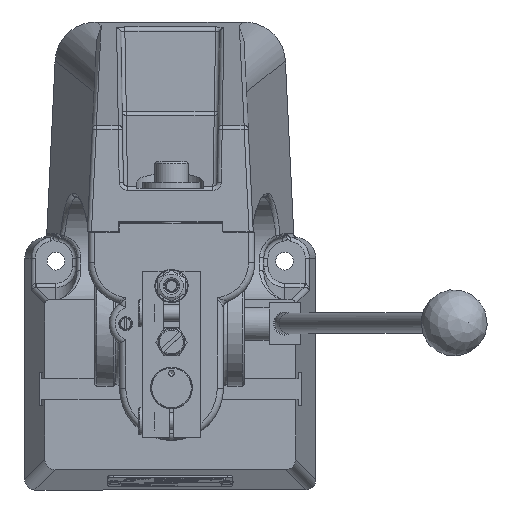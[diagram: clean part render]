
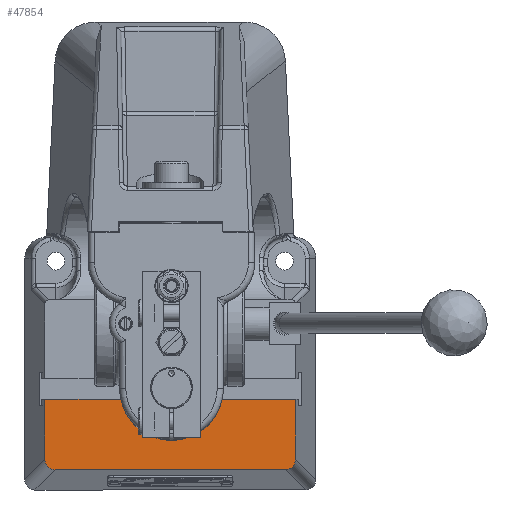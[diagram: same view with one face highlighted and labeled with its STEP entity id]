
A CAD part, top view. The second image highlights one B-rep face of the part: STEP entity #47854.
In plain terms, the highlighted planar face has unit normal (0, 0, 1).
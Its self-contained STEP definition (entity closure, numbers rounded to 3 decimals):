
#2646=PLANE('',#50537);
#4124=LINE('',#62912,#8515);
#4126=LINE('',#62916,#8517);
#4133=LINE('',#62930,#8524);
#4134=LINE('',#62934,#8525);
#8515=VECTOR('',#52837,120.546);
#8517=VECTOR('',#52841,28.849);
#8524=VECTOR('',#52850,28.849);
#8525=VECTOR('',#52853,110.698);
#12864=ELLIPSE('',#50538,5.153,5.);
#12865=ELLIPSE('',#50539,5.153,5.);
#13573=FACE_OUTER_BOUND('',#16239,.T.);
#16239=EDGE_LOOP('',(#33220,#33221,#33222,#33223,#33224,#33225));
#21653=VERTEX_POINT('',#62909);
#21654=VERTEX_POINT('',#62911);
#21655=VERTEX_POINT('',#62915);
#21661=VERTEX_POINT('',#62929);
#21662=VERTEX_POINT('',#62931);
#21663=VERTEX_POINT('',#62933);
#26280=EDGE_CURVE('',#21654,#21653,#4124,.T.);
#26282=EDGE_CURVE('',#21654,#21655,#4126,.T.);
#26289=EDGE_CURVE('',#21661,#21653,#4133,.T.);
#26290=EDGE_CURVE('',#21662,#21661,#12864,.T.);
#26291=EDGE_CURVE('',#21663,#21662,#4134,.T.);
#26292=EDGE_CURVE('',#21655,#21663,#12865,.T.);
#33220=ORIENTED_EDGE('',*,*,#26280,.T.);
#33221=ORIENTED_EDGE('',*,*,#26289,.F.);
#33222=ORIENTED_EDGE('',*,*,#26290,.F.);
#33223=ORIENTED_EDGE('',*,*,#26291,.F.);
#33224=ORIENTED_EDGE('',*,*,#26292,.F.);
#33225=ORIENTED_EDGE('',*,*,#26282,.F.);
#47854=ADVANCED_FACE('',(#13573),#2646,.F.);
#50537=AXIS2_PLACEMENT_3D('',#62928,#52848,#52849);
#50538=AXIS2_PLACEMENT_3D('',#62932,#52851,#52852);
#50539=AXIS2_PLACEMENT_3D('',#62935,#52854,#52855);
#52837=DIRECTION('',(-1.,0.,0.));
#52841=DIRECTION('',(0.,-1.,0.));
#52848=DIRECTION('center_axis',(0.,0.,-1.));
#52849=DIRECTION('ref_axis',(-1.,0.,0.));
#52850=DIRECTION('',(0.,1.,0.));
#52851=DIRECTION('center_axis',(0.,0.,-1.));
#52852=DIRECTION('ref_axis',(-0.707,-0.707,0.));
#52853=DIRECTION('',(-1.,0.,0.));
#52854=DIRECTION('center_axis',(0.,0.,-1.));
#52855=DIRECTION('ref_axis',(0.707,-0.707,0.));
#62909=CARTESIAN_POINT('',(-60.273,44.,58.));
#62911=CARTESIAN_POINT('',(60.273,44.,58.));
#62912=CARTESIAN_POINT('',(2.25,44.,58.));
#62915=CARTESIAN_POINT('',(60.273,15.151,58.));
#62916=CARTESIAN_POINT('',(60.273,22.75,58.));
#62928=CARTESIAN_POINT('Origin',(4.5,45.5,58.));
#62929=CARTESIAN_POINT('',(-60.273,15.151,58.));
#62930=CARTESIAN_POINT('',(-60.273,83.75,58.));
#62931=CARTESIAN_POINT('',(-55.349,10.227,58.));
#62932=CARTESIAN_POINT('Origin',(-55.196,15.304,58.));
#62933=CARTESIAN_POINT('',(55.349,10.227,58.));
#62934=CARTESIAN_POINT('',(-33.,10.227,58.));
#62935=CARTESIAN_POINT('Origin',(55.196,15.304,58.));
